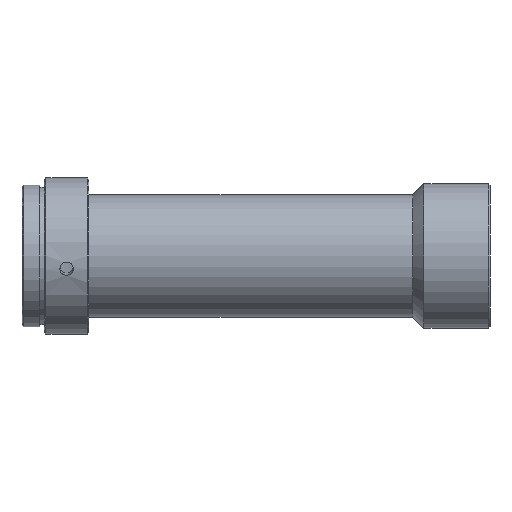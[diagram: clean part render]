
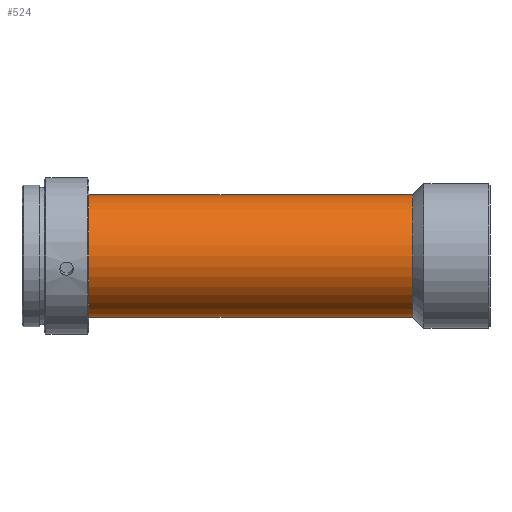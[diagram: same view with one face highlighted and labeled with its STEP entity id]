
A CAD part, front view. The second image highlights one B-rep face of the part: STEP entity #524.
In plain terms, the highlighted cylindrical face has radius 11 mm (diameter 22 mm), a partial arc.
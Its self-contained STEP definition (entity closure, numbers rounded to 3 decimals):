
#28 = ORIENTED_EDGE ( 'NONE', *, *, #2161, .T. ) ;
#51 = CARTESIAN_POINT ( 'NONE',  ( -48.42, 0., 0. ) ) ;
#66 = EDGE_CURVE ( 'NONE', #1402, #3205, #2556, .T. ) ;
#99 = EDGE_LOOP ( 'NONE', ( #3410, #3236, #28, #1989, #803, #1300, #3319, #1591 ) ) ;
#120 = LINE ( 'NONE', #3502, #3262 ) ;
#128 = VECTOR ( 'NONE', #1445, 1000. ) ;
#149 = CYLINDRICAL_SURFACE ( 'NONE', #3332, 11. ) ;
#159 = DIRECTION ( 'NONE',  ( 0., 1., 0. ) ) ;
#169 = VERTEX_POINT ( 'NONE', #3491 ) ;
#285 = VECTOR ( 'NONE', #722, 1000. ) ;
#306 = LINE ( 'NONE', #2548, #128 ) ;
#412 = FACE_OUTER_BOUND ( 'NONE', #99, .T. ) ;
#447 = VERTEX_POINT ( 'NONE', #2523 ) ;
#466 = DIRECTION ( 'NONE',  ( -1., 0., 0. ) ) ;
#524 = ADVANCED_FACE ( 'NONE', ( #412 ), #149, .T. ) ;
#525 = VERTEX_POINT ( 'NONE', #1471 ) ;
#536 = CARTESIAN_POINT ( 'NONE',  ( -48.42, 0., -11. ) ) ;
#577 = EDGE_CURVE ( 'NONE', #1570, #169, #1781, .T. ) ;
#586 = DIRECTION ( 'NONE',  ( -1., 0., 0. ) ) ;
#602 = DIRECTION ( 'NONE',  ( -1., 0., 0. ) ) ;
#642 = AXIS2_PLACEMENT_3D ( 'NONE', #1283, #466, #159 ) ;
#722 = DIRECTION ( 'NONE',  ( 1., 0., 0. ) ) ;
#794 = VERTEX_POINT ( 'NONE', #536 ) ;
#803 = ORIENTED_EDGE ( 'NONE', *, *, #2588, .T. ) ;
#957 = DIRECTION ( 'NONE',  ( 0., 0., 1. ) ) ;
#1029 = VECTOR ( 'NONE', #3176, 1000. ) ;
#1046 = CARTESIAN_POINT ( 'NONE',  ( -19., 0., -11. ) ) ;
#1283 = CARTESIAN_POINT ( 'NONE',  ( 10., 0., 0. ) ) ;
#1290 = VECTOR ( 'NONE', #3460, 1000. ) ;
#1300 = ORIENTED_EDGE ( 'NONE', *, *, #1940, .F. ) ;
#1304 = DIRECTION ( 'NONE',  ( -1., 0., 0. ) ) ;
#1322 = CARTESIAN_POINT ( 'NONE',  ( 10., 0., -11. ) ) ;
#1366 = EDGE_CURVE ( 'NONE', #1570, #525, #306, .T. ) ;
#1376 = CARTESIAN_POINT ( 'NONE',  ( 10., 0., 0. ) ) ;
#1402 = VERTEX_POINT ( 'NONE', #1984 ) ;
#1445 = DIRECTION ( 'NONE',  ( -1., 0., 0. ) ) ;
#1471 = CARTESIAN_POINT ( 'NONE',  ( 3., 0., -11. ) ) ;
#1570 = VERTEX_POINT ( 'NONE', #1322 ) ;
#1591 = ORIENTED_EDGE ( 'NONE', *, *, #2256, .F. ) ;
#1780 = CARTESIAN_POINT ( 'NONE',  ( 10., 0., 11. ) ) ;
#1781 = CIRCLE ( 'NONE', #642, 11. ) ;
#1940 = EDGE_CURVE ( 'NONE', #794, #447, #2569, .T. ) ;
#1984 = CARTESIAN_POINT ( 'NONE',  ( -19., 0., 11. ) ) ;
#1989 = ORIENTED_EDGE ( 'NONE', *, *, #66, .F. ) ;
#2000 = LINE ( 'NONE', #1780, #1290 ) ;
#2078 = CARTESIAN_POINT ( 'NONE',  ( 10., 0., 11. ) ) ;
#2161 = EDGE_CURVE ( 'NONE', #169, #3205, #2000, .T. ) ;
#2256 = EDGE_CURVE ( 'NONE', #525, #2721, #120, .T. ) ;
#2523 = CARTESIAN_POINT ( 'NONE',  ( -48.42, 0., 11. ) ) ;
#2548 = CARTESIAN_POINT ( 'NONE',  ( 10., 0., -11. ) ) ;
#2556 = LINE ( 'NONE', #3441, #285 ) ;
#2569 = CIRCLE ( 'NONE', #3221, 11. ) ;
#2588 = EDGE_CURVE ( 'NONE', #1402, #447, #2905, .T. ) ;
#2721 = VERTEX_POINT ( 'NONE', #1046 ) ;
#2905 = LINE ( 'NONE', #2078, #1029 ) ;
#3060 = DIRECTION ( 'NONE',  ( 0., -1., 0. ) ) ;
#3158 = EDGE_CURVE ( 'NONE', #2721, #794, #3384, .T. ) ;
#3176 = DIRECTION ( 'NONE',  ( -1., 0., 0. ) ) ;
#3205 = VERTEX_POINT ( 'NONE', #3289 ) ;
#3221 = AXIS2_PLACEMENT_3D ( 'NONE', #51, #602, #3060 ) ;
#3236 = ORIENTED_EDGE ( 'NONE', *, *, #577, .T. ) ;
#3262 = VECTOR ( 'NONE', #1304, 1000. ) ;
#3289 = CARTESIAN_POINT ( 'NONE',  ( 3., 0., 11. ) ) ;
#3319 = ORIENTED_EDGE ( 'NONE', *, *, #3158, .F. ) ;
#3325 = CARTESIAN_POINT ( 'NONE',  ( 10., 0., -11. ) ) ;
#3332 = AXIS2_PLACEMENT_3D ( 'NONE', #1376, #3394, #957 ) ;
#3384 = LINE ( 'NONE', #3325, #3572 ) ;
#3394 = DIRECTION ( 'NONE',  ( -1., 0., 0. ) ) ;
#3410 = ORIENTED_EDGE ( 'NONE', *, *, #1366, .F. ) ;
#3441 = CARTESIAN_POINT ( 'NONE',  ( -19.21, 0., 11. ) ) ;
#3460 = DIRECTION ( 'NONE',  ( -1., 0., 0. ) ) ;
#3491 = CARTESIAN_POINT ( 'NONE',  ( 10., 0., 11. ) ) ;
#3502 = CARTESIAN_POINT ( 'NONE',  ( -19.21, 0., -11. ) ) ;
#3572 = VECTOR ( 'NONE', #586, 1000. ) ;
